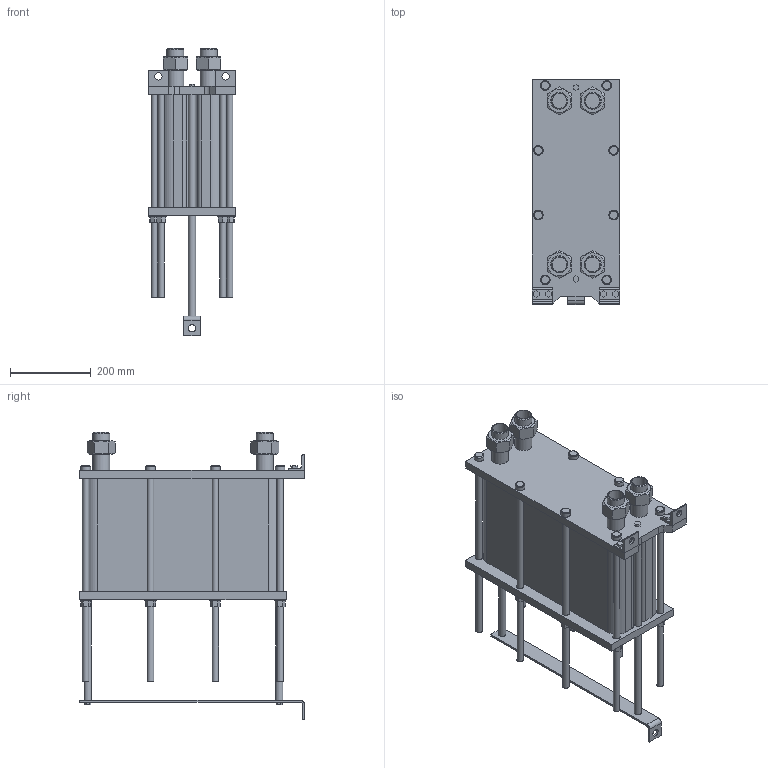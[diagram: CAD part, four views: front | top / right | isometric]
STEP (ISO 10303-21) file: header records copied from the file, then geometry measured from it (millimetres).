
FILE_DESCRIPTION(/* description */ (''),/* implementation_level */ '2;1');
FILE_NAME(/* name */ 'C:\Users\zhuro\Desktop\ENCO\TO\ЭН-004\ЭН-0,5-004-90-1.stp',/* time_stamp */ '2022-06-06T10:51:17+03:00',/* author */ ('zhuro'),/* organization */ (''),/* preprocessor_version */ 'ST-DEVELOPER v18.1',/* originating_system */ 'Autodesk Inventor 2022',/* authorisation */ '');
FILE_SCHEMA (('AUTOMOTIVE_DESIGN { 1 0 10303 214 3 1 1 }'));
Length unit declared in the file: millimetre
Products named in the file (1): ЭН-0,5-004-90-1
Bounding box: 216 x 555 x 709 mm (x, y, z)
Volume: 26643359 mm3; surface area: 1562839.8 mm2
Topology: 40 solids, 40 shells, 403 faces, 865 edges, 574 vertices
Faces by surface type: plane 272, cylinder 103, cone 28
Full cylindrical faces by diameter (mm): 10 x4, 16 x16, 18 x29, 20 x2, 24 x8, 28 x8, 36.3 x5, 42.3 x9
Entity records: 11137 total; most frequent: CARTESIAN_POINT 1939, DIRECTION 1879, ORIENTED_EDGE 1730, EDGE_CURVE 865, AXIS2_PLACEMENT_3D 658, VERTEX_POINT 574, LINE 563, VECTOR 563
